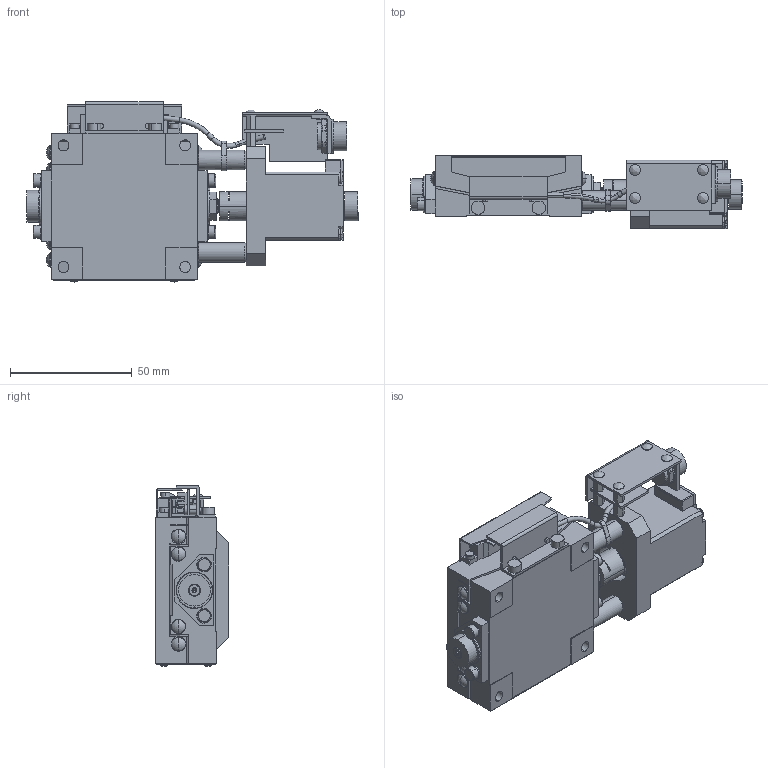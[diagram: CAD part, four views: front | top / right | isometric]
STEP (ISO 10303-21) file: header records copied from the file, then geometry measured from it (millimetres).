
FILE_DESCRIPTION (( 'STEP AP214' ), '1' );
FILE_NAME ('KGB06100M-RC.STEP', '2024-01-09T02:15:52', ( '' ), ( '' ), 'SwSTEP 2.0', 'SolidWorks 2017', '' );
FILE_SCHEMA (( 'AUTOMOTIVE_DESIGN' ));
Length unit declared in the file: millimetre
Products named in the file (5): KGB-60-C-R; KGB-60-M-12-R; KGB-TOP-06100-R; KGB06100M-RC; KGB-BASE-06100-R
Assembly tree (4 placements, depth 2):
  KGB06100M-RC
    KGB-TOP-06100-R
    KGB-BASE-06100-R
    KGB-60-C-R
    KGB-60-M-12-R
Bounding box: 136.4 x 30 x 74.3 mm (x, y, z)
Volume: 134968.9 mm3; surface area: 49911.5 mm2
Topology: 5 solids, 35 shells, 1021 faces, 2426 edges, 1558 vertices
Faces by surface type: plane 427, cylinder 391, cone 113, torus 42, sphere 30, bspline 18
Entity records: 31084 total; most frequent: CARTESIAN_POINT 6174, DIRECTION 5439, ORIENTED_EDGE 4796, EDGE_CURVE 2398, AXIS2_PLACEMENT_3D 2099, VERTEX_POINT 1558, VECTOR 1241, LINE 1241
